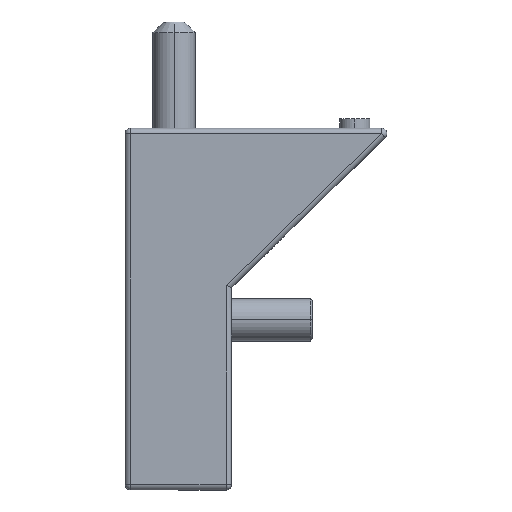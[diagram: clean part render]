
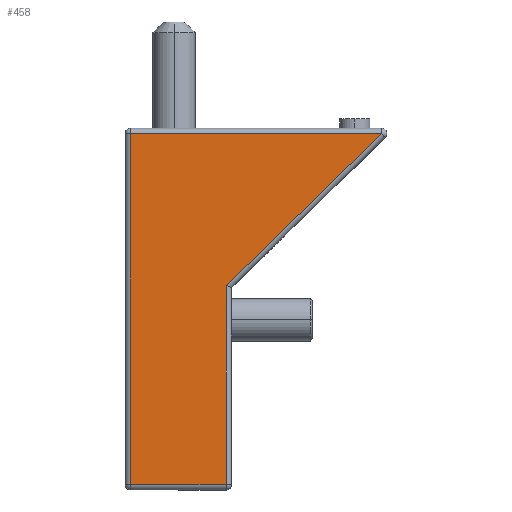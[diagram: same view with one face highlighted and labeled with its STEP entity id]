
A CAD part, top view. The second image highlights one B-rep face of the part: STEP entity #458.
In plain terms, the highlighted planar face has unit normal (0, 0, 1).
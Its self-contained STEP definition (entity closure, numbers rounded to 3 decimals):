
#48 = ORIENTED_EDGE ( 'NONE', *, *, #434, .T. ) ;
#424 = ORIENTED_EDGE ( 'NONE', *, *, #450, .T. ) ;
#434 = EDGE_CURVE ( 'NONE', #436, #438, #1700, .T. ) ;
#435 = VERTEX_POINT ( 'NONE', #1697 ) ;
#436 = VERTEX_POINT ( 'NONE', #1702 ) ;
#437 = VERTEX_POINT ( 'NONE', #1694 ) ;
#438 = VERTEX_POINT ( 'NONE', #1693 ) ;
#439 = ORIENTED_EDGE ( 'NONE', *, *, #442, .T. ) ;
#441 = ORIENTED_EDGE ( 'NONE', *, *, #444, .T. ) ;
#442 = EDGE_CURVE ( 'NONE', #437, #435, #1692, .T. ) ;
#444 = EDGE_CURVE ( 'NONE', #438, #437, #1742, .T. ) ;
#447 = ORIENTED_EDGE ( 'NONE', *, *, #448, .T. ) ;
#448 = EDGE_CURVE ( 'NONE', #435, #451, #1698, .T. ) ;
#450 = EDGE_CURVE ( 'NONE', #451, #436, #1725, .T. ) ;
#451 = VERTEX_POINT ( 'NONE', #1736 ) ;
#457 = EDGE_LOOP ( 'NONE', ( #48, #441, #439, #447, #424 ) ) ;
#458 = ADVANCED_FACE ( 'NONE', ( #1775 ), #1724, .F. ) ;
#1692 = LINE ( 'NONE', #1745, #1744 ) ;
#1693 = CARTESIAN_POINT ( 'NONE',  ( -16.5, -4.5, 3.75 ) ) ;
#1694 = CARTESIAN_POINT ( 'NONE',  ( 16.5, -4.5, 3.75 ) ) ;
#1695 = DIRECTION ( 'NONE',  ( 0., -1., 0. ) ) ;
#1696 = VECTOR ( 'NONE', #1695, 1000. ) ;
#1697 = CARTESIAN_POINT ( 'NONE',  ( 16.5, 4.5, 3.75 ) ) ;
#1698 = LINE ( 'NONE', #1728, #1727 ) ;
#1699 = CARTESIAN_POINT ( 'NONE',  ( -16.5, -5., 3.75 ) ) ;
#1700 = LINE ( 'NONE', #1699, #1696 ) ;
#1702 = CARTESIAN_POINT ( 'NONE',  ( -16.5, 19.104, 3.75 ) ) ;
#1721 = DIRECTION ( 'NONE',  ( -0.699, 0.715, 0. ) ) ;
#1722 = VECTOR ( 'NONE', #1721, 1000. ) ;
#1723 = CARTESIAN_POINT ( 'NONE',  ( -17.357, 19.98, 3.75 ) ) ;
#1724 = PLANE ( 'NONE',  #1761 ) ;
#1725 = LINE ( 'NONE', #1723, #1722 ) ;
#1726 = DIRECTION ( 'NONE',  ( -1., 0., 0. ) ) ;
#1727 = VECTOR ( 'NONE', #1726, 1000. ) ;
#1728 = CARTESIAN_POINT ( 'NONE',  ( -2., 4.5, 3.75 ) ) ;
#1736 = CARTESIAN_POINT ( 'NONE',  ( -2.21, 4.5, 3.75 ) ) ;
#1739 = DIRECTION ( 'NONE',  ( 1., 0., 0. ) ) ;
#1740 = VECTOR ( 'NONE', #1739, 1000. ) ;
#1741 = CARTESIAN_POINT ( 'NONE',  ( 17., -4.5, 3.75 ) ) ;
#1742 = LINE ( 'NONE', #1741, #1740 ) ;
#1743 = DIRECTION ( 'NONE',  ( 0., 1., 0. ) ) ;
#1744 = VECTOR ( 'NONE', #1743, 1000. ) ;
#1745 = CARTESIAN_POINT ( 'NONE',  ( 16.5, 5., 3.75 ) ) ;
#1758 = DIRECTION ( 'NONE',  ( -1., 0., 0. ) ) ;
#1759 = DIRECTION ( 'NONE',  ( 0., 0., -1. ) ) ;
#1760 = CARTESIAN_POINT ( 'NONE',  ( 17., 5., 3.75 ) ) ;
#1761 = AXIS2_PLACEMENT_3D ( 'NONE', #1760, #1759, #1758 ) ;
#1775 = FACE_OUTER_BOUND ( 'NONE', #457, .T. ) ;
